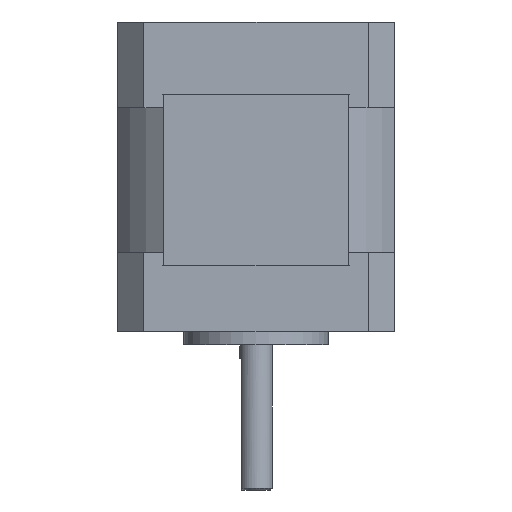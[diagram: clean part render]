
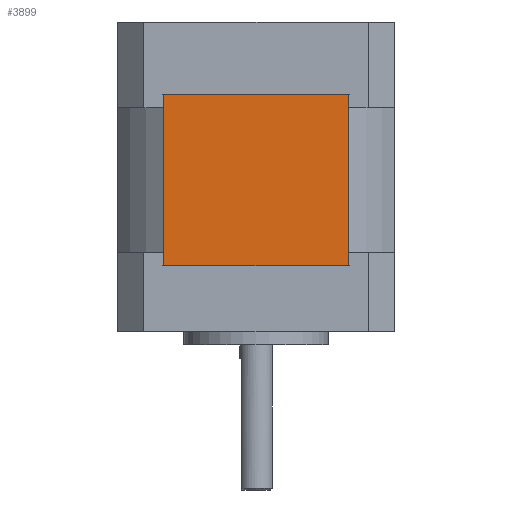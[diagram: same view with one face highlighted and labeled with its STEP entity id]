
A CAD part, front view. The second image highlights one B-rep face of the part: STEP entity #3899.
In plain terms, the highlighted planar face has unit normal (0, -1, 0).
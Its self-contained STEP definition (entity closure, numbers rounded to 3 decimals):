
#816 = LINE ( 'NONE', #855, #854 ) ;
#817 = PLANE ( 'NONE',  #852 ) ;
#837 = LINE ( 'NONE', #851, #896 ) ;
#840 = DIRECTION ( 'NONE',  ( 1., 0., 0. ) ) ;
#841 = VECTOR ( 'NONE', #840, 1000. ) ;
#842 = CARTESIAN_POINT ( 'NONE',  ( 0., -21., 26. ) ) ;
#843 = LINE ( 'NONE', #842, #841 ) ;
#844 = CARTESIAN_POINT ( 'NONE',  ( 14., -21., 26. ) ) ;
#845 = LINE ( 'NONE', #844, #901 ) ;
#847 = DIRECTION ( 'NONE',  ( 0., 0., 1. ) ) ;
#848 = DIRECTION ( 'NONE',  ( 0., 1., 0. ) ) ;
#849 = CARTESIAN_POINT ( 'NONE',  ( 0., -21., 26. ) ) ;
#850 = DIRECTION ( 'NONE',  ( 0., 0., -1. ) ) ;
#851 = CARTESIAN_POINT ( 'NONE',  ( -14., -21., 26. ) ) ;
#852 = AXIS2_PLACEMENT_3D ( 'NONE', #849, #848, #847 ) ;
#853 = DIRECTION ( 'NONE',  ( 1., 0., 0. ) ) ;
#854 = VECTOR ( 'NONE', #853, 1000. ) ;
#855 = CARTESIAN_POINT ( 'NONE',  ( 0., -21., 0. ) ) ;
#857 = CARTESIAN_POINT ( 'NONE',  ( 14., -21., 26. ) ) ;
#860 = CARTESIAN_POINT ( 'NONE',  ( 14., -21., 0. ) ) ;
#867 = FACE_OUTER_BOUND ( 'NONE', #3901, .T. ) ;
#893 = CARTESIAN_POINT ( 'NONE',  ( -14., -21., 26. ) ) ;
#895 = CARTESIAN_POINT ( 'NONE',  ( -14., -21., 0. ) ) ;
#896 = VECTOR ( 'NONE', #850, 1000. ) ;
#900 = DIRECTION ( 'NONE',  ( 0., 0., -1. ) ) ;
#901 = VECTOR ( 'NONE', #900, 1000. ) ;
#3896 = VERTEX_POINT ( 'NONE', #857 ) ;
#3897 = EDGE_CURVE ( 'NONE', #3915, #3900, #816, .T. ) ;
#3899 = ADVANCED_FACE ( 'NONE', ( #867 ), #817, .F. ) ;
#3900 = VERTEX_POINT ( 'NONE', #860 ) ;
#3901 = EDGE_LOOP ( 'NONE', ( #3903, #3906, #3959, #3962 ) ) ;
#3902 = EDGE_CURVE ( 'NONE', #3910, #3896, #843, .T. ) ;
#3903 = ORIENTED_EDGE ( 'NONE', *, *, #3897, .T. ) ;
#3904 = EDGE_CURVE ( 'NONE', #3896, #3900, #845, .T. ) ;
#3906 = ORIENTED_EDGE ( 'NONE', *, *, #3904, .F. ) ;
#3907 = EDGE_CURVE ( 'NONE', #3910, #3915, #837, .T. ) ;
#3910 = VERTEX_POINT ( 'NONE', #893 ) ;
#3915 = VERTEX_POINT ( 'NONE', #895 ) ;
#3959 = ORIENTED_EDGE ( 'NONE', *, *, #3902, .F. ) ;
#3962 = ORIENTED_EDGE ( 'NONE', *, *, #3907, .T. ) ;
